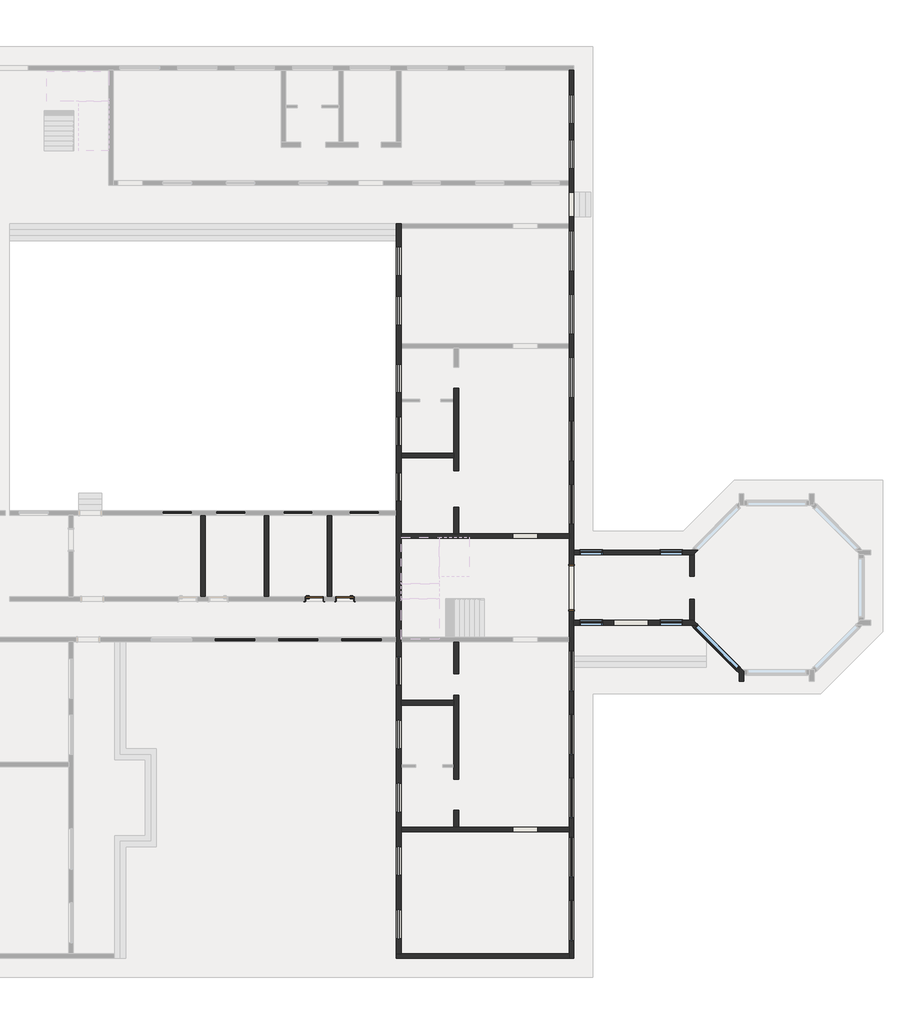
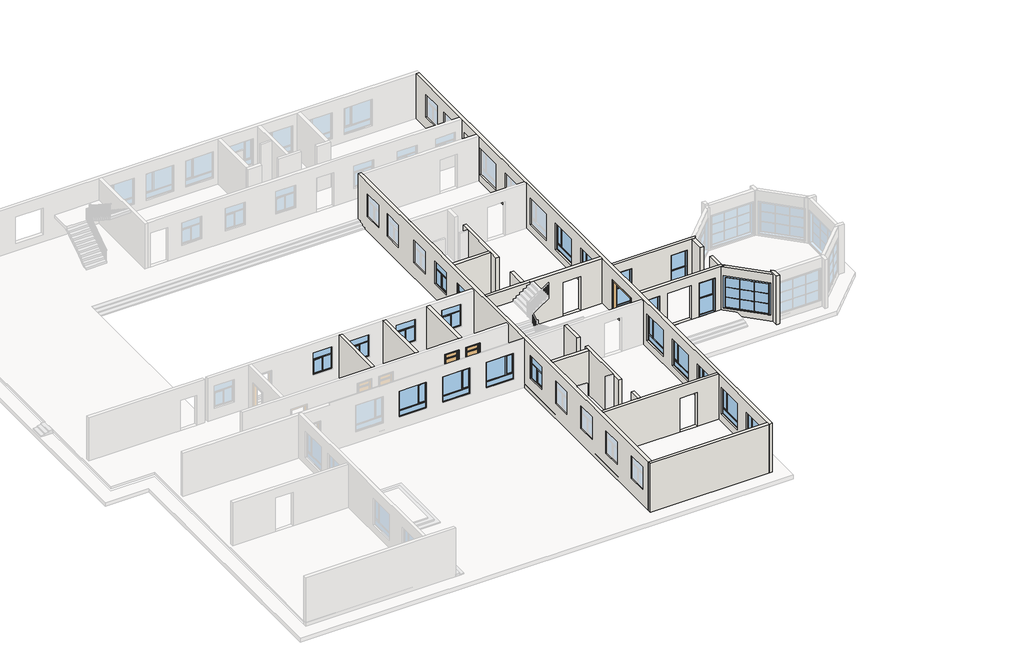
# One storey, part 2 of 5: 22 windows, 21 walls, 3 doors.
"""IFC4 building model written with IfcOpenShell, lengths in millimetres."""

from ifc_helpers import new_model, si_unit, frame, origin, place, context, project, spatial, polyline, outline, extrude, faceted_brep, transform, mapped, element, save
from components import door_54be2501, m1_645588ba, m1_8023598c, c1_07d47191, c2_05897f81, c3_0cb914d8, c4_9eb043cc

model = new_model("IFC4")

# Units and contexts
model_context = context("Model", 3, world=origin())
ifc_project = project(units=[si_unit("LENGTHUNIT", "METRE", prefix="MILLI")], contexts=[model_context])

# Site, building, storey
site = spatial("IfcSite", under=ifc_project)
building = spatial("IfcBuilding", under=site)
storey = spatial("IfcBuildingStorey", under=building, Name="一层", Elevation=0.0)

# Doors
placement = place(None, origin())
door_shape = door_54be2501(model_context)
element("IfcDoor", 1, ObjectType="门洞 : MD1(洞口）", at=placement, inside=storey, context=model_context, shape_type="MappedRepresentation", body=[
    mapped(door_shape, transform((6129.7168608, -8520.7838385, 0.0), x_axis=(0.0, 1.0, 0.0), y_axis=(-1.0, 0.0, 0.0), z_axis=(0.0, 0.0, 1.0))),
])
m1_shape = m1_645588ba(model_context)
element("IfcDoor", 2, ObjectType="单嵌板木门 13 : M1", at=placement, inside=storey, context=model_context, shape_type="MappedRepresentation", body=[
    mapped(m1_shape, transform((-7270.2831392, -9113.7838385, 0.0), x_axis=(1.0, 0.0, 0.0), y_axis=(0.0, 1.0, 0.0), z_axis=(0.0, 0.0, 1.0))),
])
m1_2_shape = m1_8023598c(model_context)
element("IfcDoor", 3, ObjectType="单嵌板木门 13 : M1", at=placement, inside=storey, context=model_context, shape_type="MappedRepresentation", body=[
    mapped(m1_2_shape, transform((-5670.2831392, -9113.7838385, 0.0), x_axis=(-1.0, 0.0, 0.0), y_axis=(0.0, -1.0, 0.0), z_axis=(0.0, 0.0, 1.0))),
])

# Walls
element("IfcWall", 4, ObjectType="墙", at=placement, inside=storey, context=model_context, shape_type="Brep", body=[
    faceted_brep([(6249.7168608, -27833.7838385, -300.0), (6249.7168608, -10460.7838385, -300.0), (6249.7168608, -10220.7838385, -300.0), (6249.7168608, -6806.7838385, -300.0), (6249.7168608, -6566.7838385, -300.0), (6249.7168608, 18456.2161615, -300.0), (6249.7168608, 18456.2161615, 3600.0), (6249.7168608, -7920.7838385, 3600.0), (6249.7168608, -9120.7838385, 3600.0), (6249.7168608, -27833.7838385, 3600.0), (6249.7168608, 17176.2161615, 900.0), (6249.7168608, 15676.2161615, 900.0), (6249.7168608, 15676.2161615, 2700.0), (6249.7168608, 17176.2161615, 2700.0), (6249.7168608, 14826.2161615, 900.0), (6249.7168608, 13326.2161615, 900.0), (6249.7168608, 13326.2161615, 2700.0), (6249.7168608, 14826.2161615, 2700.0), (6249.7168608, -24813.7838385, 600.0), (6249.7168608, -26913.7838385, 600.0), (6249.7168608, -26913.7838385, 2700.0), (6249.7168608, -24813.7838385, 2700.0), (6249.7168608, -21513.7838385, 600.0), (6249.7168608, -23613.7838385, 600.0), (6249.7168608, -23613.7838385, 2700.0), (6249.7168608, -21513.7838385, 2700.0), (6249.7168608, -18413.7838385, 600.0), (6249.7168608, -20513.7838385, 600.0), (6249.7168608, -20513.7838385, 2700.0), (6249.7168608, -18413.7838385, 2700.0), (6249.7168608, -15113.7838385, 600.0), (6249.7168608, -17213.7838385, 600.0), (6249.7168608, -17213.7838385, 2700.0), (6249.7168608, -15113.7838385, 2700.0), (6249.7168608, -11813.7838385, 600.0), (6249.7168608, -13913.7838385, 600.0), (6249.7168608, -13913.7838385, 2700.0), (6249.7168608, -11813.7838385, 2700.0), (6249.7168608, 10086.2161615, 600.0), (6249.7168608, 7986.2161615, 600.0), (6249.7168608, 7986.2161615, 2700.0), (6249.7168608, 10086.2161615, 2700.0), (6249.7168608, 6786.2161615, 600.0), (6249.7168608, 4686.2161615, 600.0), (6249.7168608, 4686.2161615, 2700.0), (6249.7168608, 6786.2161615, 2700.0), (6249.7168608, 3486.2161615, 600.0), (6249.7168608, 1386.2161615, 600.0), (6249.7168608, 1386.2161615, 2700.0), (6249.7168608, 3486.2161615, 2700.0), (6249.7168608, 186.2161615, 600.0), (6249.7168608, -1913.7838385, 600.0), (6249.7168608, -1913.7838385, 2700.0), (6249.7168608, 186.2161615, 2700.0), (6249.7168608, -3113.7838385, 600.0), (6249.7168608, -5213.7838385, 600.0), (6249.7168608, -5213.7838385, 2700.0), (6249.7168608, -3113.7838385, 2700.0), (6249.7168608, 12111.2161615, 0.0), (6249.7168608, 10811.2161615, 0.0), (6249.7168608, 10811.2161615, 2700.0), (6249.7168608, 12111.2161615, 2700.0), (6249.7168608, -7320.7838385, 0.0), (6249.7168608, -9720.7838385, 0.0), (6249.7168608, -9720.7838385, 2700.0), (6249.7168608, -7320.7838385, 2700.0), (6009.7168608, -27833.7838385, -300.0), (6009.7168608, -27833.7838385, 3600.0), (6009.7168608, -27593.7838385, 3600.0), (6009.7168608, -21233.7838385, 3600.0), (6009.7168608, -20993.7838385, 3600.0), (6009.7168608, -9120.7838385, 3600.0), (6009.7168608, -7920.7838385, 3600.0), (6009.7168608, -5933.7838385, 3600.0), (6009.7168608, -5693.7838385, 3600.0), (6009.7168608, 3966.2161615, 3600.0), (6009.7168608, 4206.2161615, 3600.0), (6009.7168608, 10226.2161615, 3600.0), (6009.7168608, 10466.2161615, 3600.0), (6009.7168608, 12456.2161615, 3600.0), (6009.7168608, 12696.2161615, 3600.0), (6009.7168608, 18456.2161615, 3600.0), (6009.7168608, 18456.2161615, -300.0), (6009.7168608, 12696.2161615, -300.0), (6009.7168608, 12456.2161615, -300.0), (6009.7168608, 10466.2161615, -300.0), (6009.7168608, 10226.2161615, -300.0), (6009.7168608, 4206.2161615, -300.0), (6009.7168608, 3966.2161615, -300.0), (6009.7168608, -5693.7838385, -300.0), (6009.7168608, -5933.7838385, -300.0), (6009.7168608, -11093.7838385, -300.0), (6009.7168608, -11333.7838385, -300.0), (6009.7168608, -20993.7838385, -300.0), (6009.7168608, -21233.7838385, -300.0), (6009.7168608, -27593.7838385, -300.0), (6009.7168608, 17176.2161615, 900.0), (6009.7168608, 17176.2161615, 2700.0), (6009.7168608, 15676.2161615, 2700.0), (6009.7168608, 15676.2161615, 900.0), (6009.7168608, 14826.2161615, 900.0), (6009.7168608, 14826.2161615, 2700.0), (6009.7168608, 13326.2161615, 2700.0), (6009.7168608, 13326.2161615, 900.0), (6009.7168608, -24813.7838385, 600.0), (6009.7168608, -24813.7838385, 2700.0), (6009.7168608, -26913.7838385, 2700.0), (6009.7168608, -26913.7838385, 600.0), (6009.7168608, -21513.7838385, 600.0), (6009.7168608, -21513.7838385, 2700.0), (6009.7168608, -23613.7838385, 2700.0), (6009.7168608, -23613.7838385, 600.0), (6009.7168608, -18413.7838385, 600.0), (6009.7168608, -18413.7838385, 2700.0), (6009.7168608, -20513.7838385, 2700.0), (6009.7168608, -20513.7838385, 600.0), (6009.7168608, -15113.7838385, 600.0), (6009.7168608, -15113.7838385, 2700.0), (6009.7168608, -17213.7838385, 2700.0), (6009.7168608, -17213.7838385, 600.0), (6009.7168608, -11813.7838385, 600.0), (6009.7168608, -11813.7838385, 2700.0), (6009.7168608, -13913.7838385, 2700.0), (6009.7168608, -13913.7838385, 600.0), (6009.7168608, 10086.2161615, 600.0), (6009.7168608, 10086.2161615, 2700.0), (6009.7168608, 7986.2161615, 2700.0), (6009.7168608, 7986.2161615, 600.0), (6009.7168608, 6786.2161615, 600.0), (6009.7168608, 6786.2161615, 2700.0), (6009.7168608, 4686.2161615, 2700.0), (6009.7168608, 4686.2161615, 600.0), (6009.7168608, 3486.2161615, 600.0), (6009.7168608, 3486.2161615, 2700.0), (6009.7168608, 1386.2161615, 2700.0), (6009.7168608, 1386.2161615, 600.0), (6009.7168608, 186.2161615, 600.0), (6009.7168608, 186.2161615, 2700.0), (6009.7168608, -1913.7838385, 2700.0), (6009.7168608, -1913.7838385, 600.0), (6009.7168608, -3113.7838385, 600.0), (6009.7168608, -3113.7838385, 2700.0), (6009.7168608, -5213.7838385, 2700.0), (6009.7168608, -5213.7838385, 600.0), (6009.7168608, 12111.2161615, 0.0), (6009.7168608, 12111.2161615, 2700.0), (6009.7168608, 10811.2161615, 2700.0), (6009.7168608, 10811.2161615, 0.0), (6009.7168608, -7320.7838385, 0.0), (6009.7168608, -7320.7838385, 2700.0), (6009.7168608, -9720.7838385, 2700.0), (6009.7168608, -9720.7838385, 0.0)], [[[0, 1, 2, 3, 4, 5, 6, 7, 8, 9], [10, 11, 12, 13], [14, 15, 16, 17], [18, 19, 20, 21], [22, 23, 24, 25], [26, 27, 28, 29], [30, 31, 32, 33], [34, 35, 36, 37], [38, 39, 40, 41], [42, 43, 44, 45], [46, 47, 48, 49], [50, 51, 52, 53], [54, 55, 56, 57], [58, 59, 60, 61], [62, 63, 64, 65]], [[66, 67, 68, 69, 70, 71, 72, 73, 74, 75, 76, 77, 78, 79, 80, 81, 82, 83, 84, 85, 86, 87, 88, 89, 90, 91, 92, 93, 94, 95], [96, 97, 98, 99], [100, 101, 102, 103], [104, 105, 106, 107], [108, 109, 110, 111], [112, 113, 114, 115], [116, 117, 118, 119], [120, 121, 122, 123], [124, 125, 126, 127], [128, 129, 130, 131], [132, 133, 134, 135], [136, 137, 138, 139], [140, 141, 142, 143], [144, 145, 146, 147], [148, 149, 150, 151]], [[5, 4, 3, 2, 1, 0, 66, 95, 94, 93, 92, 91, 90, 89, 88, 87, 86, 85, 84, 83, 82]], [[9, 8, 7, 6, 81, 80, 79, 78, 77, 76, 75, 74, 73, 72, 71, 70, 69, 68, 67]], [[6, 5, 82, 81]], [[0, 9, 67, 66]], [[97, 96, 10, 13]], [[98, 97, 13, 12]], [[99, 98, 12, 11]], [[96, 99, 11, 10]], [[101, 100, 14, 17]], [[102, 101, 17, 16]], [[103, 102, 16, 15]], [[100, 103, 15, 14]], [[105, 104, 18, 21]], [[106, 105, 21, 20]], [[107, 106, 20, 19]], [[104, 107, 19, 18]], [[109, 108, 22, 25]], [[110, 109, 25, 24]], [[111, 110, 24, 23]], [[108, 111, 23, 22]], [[113, 112, 26, 29]], [[114, 113, 29, 28]], [[115, 114, 28, 27]], [[112, 115, 27, 26]], [[117, 116, 30, 33]], [[118, 117, 33, 32]], [[119, 118, 32, 31]], [[116, 119, 31, 30]], [[121, 120, 34, 37]], [[122, 121, 37, 36]], [[123, 122, 36, 35]], [[120, 123, 35, 34]], [[125, 124, 38, 41]], [[126, 125, 41, 40]], [[127, 126, 40, 39]], [[124, 127, 39, 38]], [[129, 128, 42, 45]], [[130, 129, 45, 44]], [[131, 130, 44, 43]], [[128, 131, 43, 42]], [[133, 132, 46, 49]], [[134, 133, 49, 48]], [[135, 134, 48, 47]], [[132, 135, 47, 46]], [[137, 136, 50, 53]], [[138, 137, 53, 52]], [[139, 138, 52, 51]], [[136, 139, 51, 50]], [[141, 140, 54, 57]], [[142, 141, 57, 56]], [[143, 142, 56, 55]], [[140, 143, 55, 54]], [[145, 144, 58, 61]], [[146, 145, 61, 60]], [[147, 146, 60, 59]], [[144, 147, 59, 58]], [[149, 148, 62, 65]], [[150, 149, 65, 64]], [[151, 150, 64, 63]], [[148, 151, 63, 62]]]),
])
element("IfcWall", 5, ObjectType="墙", at=placement, inside=storey, context=model_context, shape_type="Brep", body=[
    faceted_brep([(-2990.2831392, -27833.7838385, -300.0), (6009.7168608, -27833.7838385, -300.0), (6009.7168608, -27833.7838385, 3600.0), (-2990.2831392, -27833.7838385, 3600.0), (-2990.2831392, -27593.7838385, -300.0), (-2990.2831392, -27593.7838385, 3600.0), (-2750.2831392, -27593.7838385, 3600.0), (6009.7168608, -27593.7838385, 3600.0), (6009.7168608, -27593.7838385, -300.0), (-2750.2831392, -27593.7838385, -300.0)], [[[0, 1, 2, 3]], [[4, 5, 6, 7, 8, 9]], [[1, 0, 4, 9, 8]], [[3, 2, 7, 6, 5]], [[2, 1, 8, 7]], [[0, 3, 5, 4]]]),
])
element("IfcWall", 6, ObjectType="墙", at=placement, inside=storey, context=model_context, shape_type="Brep", body=[
    faceted_brep([(-2750.2831392, -27593.7838385, -300.0), (-2750.2831392, -21233.7838385, -300.0), (-2750.2831392, -20993.7838385, -300.0), (-2750.2831392, -14633.7838385, -300.0), (-2750.2831392, -14393.7838385, -300.0), (-2750.2831392, -11333.7838385, -300.0), (-2750.2831392, -11093.7838385, -300.0), (-2750.2831392, -5933.7838385, -300.0), (-2750.2831392, -5693.7838385, -300.0), (-2750.2831392, -1733.7838385, -300.0), (-2750.2831392, -1493.7838385, -300.0), (-2750.2831392, 3966.2161615, -300.0), (-2750.2831392, 4206.2161615, -300.0), (-2750.2831392, 10226.2161615, -300.0), (-2750.2831392, 10466.2161615, -300.0), (-2750.2831392, 10466.2161615, 3600.0), (-2750.2831392, 10226.2161615, 3600.0), (-2750.2831392, 4206.2161615, 3600.0), (-2750.2831392, 3966.2161615, 3600.0), (-2750.2831392, 1296.2161615, 3600.0), (-2750.2831392, 1176.2161615, 3600.0), (-2750.2831392, -1493.7838385, 3600.0), (-2750.2831392, -1733.7838385, 3600.0), (-2750.2831392, -5693.7838385, 3600.0), (-2750.2831392, -5933.7838385, 3600.0), (-2750.2831392, -11093.7838385, 3600.0), (-2750.2831392, -11153.7838385, 3600.0), (-2750.2831392, -14393.7838385, 3600.0), (-2750.2831392, -14633.7838385, 3600.0), (-2750.2831392, -17753.7838385, 3600.0), (-2750.2831392, -17873.7838385, 3600.0), (-2750.2831392, -20993.7838385, 3600.0), (-2750.2831392, -21233.7838385, 3600.0), (-2750.2831392, -27593.7838385, 3600.0), (-2750.2831392, -26813.7838385, 900.0), (-2750.2831392, -26813.7838385, 2700.0), (-2750.2831392, -25313.7838385, 2700.0), (-2750.2831392, -25313.7838385, 900.0), (-2750.2831392, -23513.7838385, 900.0), (-2750.2831392, -23513.7838385, 2700.0), (-2750.2831392, -22013.7838385, 2700.0), (-2750.2831392, -22013.7838385, 900.0), (-2750.2831392, -20213.7838385, 900.0), (-2750.2831392, -20213.7838385, 2700.0), (-2750.2831392, -18713.7838385, 2700.0), (-2750.2831392, -18713.7838385, 900.0), (-2750.2831392, -16913.7838385, 900.0), (-2750.2831392, -16913.7838385, 2700.0), (-2750.2831392, -15413.7838385, 2700.0), (-2750.2831392, -15413.7838385, 900.0), (-2750.2831392, -13613.7838385, 900.0), (-2750.2831392, -13613.7838385, 2700.0), (-2750.2831392, -12113.7838385, 2700.0), (-2750.2831392, -12113.7838385, 900.0), (-2750.2831392, 7746.2161615, 900.0), (-2750.2831392, 7746.2161615, 2700.0), (-2750.2831392, 9246.2161615, 2700.0), (-2750.2831392, 9246.2161615, 900.0), (-2750.2831392, 5166.2161615, 900.0), (-2750.2831392, 5166.2161615, 2700.0), (-2750.2831392, 6666.2161615, 2700.0), (-2750.2831392, 6666.2161615, 900.0), (-2750.2831392, 1636.2161615, 900.0), (-2750.2831392, 1636.2161615, 2700.0), (-2750.2831392, 3136.2161615, 2700.0), (-2750.2831392, 3136.2161615, 900.0), (-2750.2831392, -1113.7838385, 900.0), (-2750.2831392, -1113.7838385, 2700.0), (-2750.2831392, 386.2161615, 2700.0), (-2750.2831392, 386.2161615, 900.0), (-2750.2831392, -4013.7838385, 900.0), (-2750.2831392, -4013.7838385, 2700.0), (-2750.2831392, -2513.7838385, 2700.0), (-2750.2831392, -2513.7838385, 900.0), (-2990.2831392, -27593.7838385, -300.0), (-2990.2831392, -27593.7838385, 3600.0), (-2990.2831392, -11333.7838385, 3600.0), (-2990.2831392, -11273.7838385, 3600.0), (-2990.2831392, 10466.2161615, 3600.0), (-2990.2831392, 10466.2161615, -300.0), (-2990.2831392, -4493.7838385, -300.0), (-2990.2831392, -4733.7838385, -300.0), (-2990.2831392, -8993.7838385, -300.0), (-2990.2831392, -9233.7838385, -300.0), (-2990.2831392, -11093.7838385, -300.0), (-2990.2831392, -11333.7838385, -300.0), (-2990.2831392, -26813.7838385, 900.0), (-2990.2831392, -25313.7838385, 900.0), (-2990.2831392, -25313.7838385, 2700.0), (-2990.2831392, -26813.7838385, 2700.0), (-2990.2831392, -23513.7838385, 900.0), (-2990.2831392, -22013.7838385, 900.0), (-2990.2831392, -22013.7838385, 2700.0), (-2990.2831392, -23513.7838385, 2700.0), (-2990.2831392, -20213.7838385, 900.0), (-2990.2831392, -18713.7838385, 900.0), (-2990.2831392, -18713.7838385, 2700.0), (-2990.2831392, -20213.7838385, 2700.0), (-2990.2831392, -16913.7838385, 900.0), (-2990.2831392, -15413.7838385, 900.0), (-2990.2831392, -15413.7838385, 2700.0), (-2990.2831392, -16913.7838385, 2700.0), (-2990.2831392, -13613.7838385, 900.0), (-2990.2831392, -12113.7838385, 900.0), (-2990.2831392, -12113.7838385, 2700.0), (-2990.2831392, -13613.7838385, 2700.0), (-2990.2831392, 7746.2161615, 900.0), (-2990.2831392, 9246.2161615, 900.0), (-2990.2831392, 9246.2161615, 2700.0), (-2990.2831392, 7746.2161615, 2700.0), (-2990.2831392, 5166.2161615, 900.0), (-2990.2831392, 6666.2161615, 900.0), (-2990.2831392, 6666.2161615, 2700.0), (-2990.2831392, 5166.2161615, 2700.0), (-2990.2831392, 1636.2161615, 900.0), (-2990.2831392, 3136.2161615, 900.0), (-2990.2831392, 3136.2161615, 2700.0), (-2990.2831392, 1636.2161615, 2700.0), (-2990.2831392, -1113.7838385, 900.0), (-2990.2831392, 386.2161615, 900.0), (-2990.2831392, 386.2161615, 2700.0), (-2990.2831392, -1113.7838385, 2700.0), (-2990.2831392, -4013.7838385, 900.0), (-2990.2831392, -2513.7838385, 900.0), (-2990.2831392, -2513.7838385, 2700.0), (-2990.2831392, -4013.7838385, 2700.0)], [[[0, 1, 2, 3, 4, 5, 6, 7, 8, 9, 10, 11, 12, 13, 14, 15, 16, 17, 18, 19, 20, 21, 22, 23, 24, 25, 26, 27, 28, 29, 30, 31, 32, 33], [34, 35, 36, 37], [38, 39, 40, 41], [42, 43, 44, 45], [46, 47, 48, 49], [50, 51, 52, 53], [54, 55, 56, 57], [58, 59, 60, 61], [62, 63, 64, 65], [66, 67, 68, 69], [70, 71, 72, 73]], [[74, 75, 76, 77, 78, 79, 80, 81, 82, 83, 84, 85], [86, 87, 88, 89], [90, 91, 92, 93], [94, 95, 96, 97], [98, 99, 100, 101], [102, 103, 104, 105], [106, 107, 108, 109], [110, 111, 112, 113], [114, 115, 116, 117], [118, 119, 120, 121], [122, 123, 124, 125]], [[14, 13, 12, 11, 10, 9, 8, 7, 6, 5, 4, 3, 2, 1, 0, 74, 85, 84, 83, 82, 81, 80, 79]], [[33, 32, 31, 30, 29, 28, 27, 26, 25, 24, 23, 22, 21, 20, 19, 18, 17, 16, 15, 78, 77, 76, 75]], [[0, 33, 75, 74]], [[35, 34, 86, 89]], [[36, 35, 89, 88]], [[37, 36, 88, 87]], [[34, 37, 87, 86]], [[39, 38, 90, 93]], [[40, 39, 93, 92]], [[41, 40, 92, 91]], [[38, 41, 91, 90]], [[43, 42, 94, 97]], [[44, 43, 97, 96]], [[45, 44, 96, 95]], [[42, 45, 95, 94]], [[47, 46, 98, 101]], [[48, 47, 101, 100]], [[49, 48, 100, 99]], [[46, 49, 99, 98]], [[51, 50, 102, 105]], [[52, 51, 105, 104]], [[53, 52, 104, 103]], [[50, 53, 103, 102]], [[15, 14, 79, 78]], [[55, 54, 106, 109]], [[56, 55, 109, 108]], [[57, 56, 108, 107]], [[54, 57, 107, 106]], [[59, 58, 110, 113]], [[60, 59, 113, 112]], [[61, 60, 112, 111]], [[58, 61, 111, 110]], [[63, 62, 114, 117]], [[64, 63, 117, 116]], [[65, 64, 116, 115]], [[62, 65, 115, 114]], [[67, 66, 118, 121]], [[68, 67, 121, 120]], [[69, 68, 120, 119]], [[66, 69, 119, 118]], [[71, 70, 122, 125]], [[72, 71, 125, 124]], [[73, 72, 124, 123]], [[70, 73, 123, 122]]]),
])
element("IfcWall", 7, ObjectType="墙", at=placement, inside=storey, context=model_context, shape_type="Brep", body=[
    faceted_brep([(6249.7168608, -6806.7838385, -300.0), (12304.7168608, -6806.7838385, -300.0), (12474.4224883, -6806.7838385, -300.0), (12474.4224883, -6806.7838385, 3450.0), (12304.7168608, -6806.7838385, 3450.0), (6249.7168608, -6806.7838385, 3450.0), (7754.7168608, -6806.7838385, 2700.0), (7754.7168608, -6806.7838385, 0.0), (6554.7168608, -6806.7838385, 0.0), (6554.7168608, -6806.7838385, 2700.0), (11939.7168608, -6806.7838385, 2700.0), (11939.7168608, -6806.7838385, 0.0), (10739.7168608, -6806.7838385, 0.0), (10739.7168608, -6806.7838385, 2700.0), (12714.4224883, -6566.7838385, -300.0), (12375.0112333, -6566.7838385, -300.0), (6249.7168608, -6566.7838385, -300.0), (6249.7168608, -6566.7838385, 3450.0), (12375.0112333, -6566.7838385, 3450.0), (12714.4224883, -6566.7838385, 3450.0), (12714.4224883, -6566.7838385, 2700.0), (12710.5961532, -6566.7838385, 2700.0), (12710.5961532, -6566.7838385, 200.0), (12714.4224883, -6566.7838385, 200.0), (7754.7168608, -6566.7838385, 0.0), (7754.7168608, -6566.7838385, 2700.0), (6554.7168608, -6566.7838385, 2700.0), (6554.7168608, -6566.7838385, 0.0), (11939.7168608, -6566.7838385, 0.0), (11939.7168608, -6566.7838385, 2700.0), (10739.7168608, -6566.7838385, 2700.0), (10739.7168608, -6566.7838385, 0.0), (12544.7168608, -6736.4894659, -300.0), (12712.5093208, -6568.697006, 200.0), (12712.5093208, -6568.697006, 2700.0), (12544.7168608, -6736.4894659, 3450.0)], [[[0, 1, 2, 3, 4, 5], [6, 7, 8, 9], [10, 11, 12, 13]], [[14, 15, 16, 17, 18, 19, 20, 21, 22, 23], [24, 25, 26, 27], [28, 29, 30, 31]], [[2, 1, 0, 16, 15, 14, 32]], [[16, 0, 5, 17]], [[2, 32, 14, 23, 33, 34, 20, 19, 35, 3]], [[7, 6, 25, 24]], [[8, 7, 24, 27]], [[9, 8, 27, 26]], [[6, 9, 26, 25]], [[11, 10, 29, 28]], [[12, 11, 28, 31]], [[13, 12, 31, 30]], [[10, 13, 30, 29]], [[22, 33, 23]], [[33, 22, 21, 34]], [[34, 21, 20]], [[5, 4, 3, 35, 19, 18, 17]]]),
])
element("IfcWall", 8, ObjectType="墙", at=placement, inside=storey, context=model_context, shape_type="Brep", body=[
    faceted_brep([(6249.7168608, -10460.7838385, -300.0), (12375.0112333, -10460.7838385, -300.0), (12714.4224883, -10460.7838385, -300.0), (12714.4224883, -10460.7838385, 200.0), (12710.5961532, -10460.7838385, 200.0), (12710.5961532, -10460.7838385, 2700.0), (12714.4224883, -10460.7838385, 2700.0), (12714.4224883, -10460.7838385, 3450.0), (12375.0112333, -10460.7838385, 3450.0), (6249.7168608, -10460.7838385, 3450.0), (11939.7168608, -10460.7838385, 2700.0), (11939.7168608, -10460.7838385, 0.0), (10739.7168608, -10460.7838385, 0.0), (10739.7168608, -10460.7838385, 2700.0), (7754.7168608, -10460.7838385, 2700.0), (7754.7168608, -10460.7838385, 0.0), (6554.7168608, -10460.7838385, 0.0), (6554.7168608, -10460.7838385, 2700.0), (10146.7168608, -10460.7838385, 2700.0), (10146.7168608, -10460.7838385, 0.0), (8346.7168608, -10460.7838385, 0.0), (8346.7168608, -10460.7838385, 2700.0), (12474.4224883, -10220.7838385, -300.0), (12304.7168608, -10220.7838385, -300.0), (6249.7168608, -10220.7838385, -300.0), (6249.7168608, -10220.7838385, 3450.0), (12304.7168608, -10220.7838385, 3450.0), (12474.4224883, -10220.7838385, 3450.0), (11939.7168608, -10220.7838385, 0.0), (11939.7168608, -10220.7838385, 2700.0), (10739.7168608, -10220.7838385, 2700.0), (10739.7168608, -10220.7838385, 0.0), (7754.7168608, -10220.7838385, 0.0), (7754.7168608, -10220.7838385, 2700.0), (6554.7168608, -10220.7838385, 2700.0), (6554.7168608, -10220.7838385, 0.0), (10146.7168608, -10220.7838385, 0.0), (10146.7168608, -10220.7838385, 2700.0), (8346.7168608, -10220.7838385, 2700.0), (8346.7168608, -10220.7838385, 0.0), (12544.7168608, -10291.078211, -300.0), (12544.7168608, -10291.078211, 3450.0), (12712.5093208, -10458.8706709, 2700.0), (12712.5093208, -10458.8706709, 200.0)], [[[0, 1, 2, 3, 4, 5, 6, 7, 8, 9], [10, 11, 12, 13], [14, 15, 16, 17], [18, 19, 20, 21]], [[22, 23, 24, 25, 26, 27], [28, 29, 30, 31], [32, 33, 34, 35], [36, 37, 38, 39]], [[2, 1, 0, 24, 23, 22, 40]], [[2, 40, 22, 27, 41, 7, 6, 42, 43, 3]], [[24, 0, 9, 25]], [[11, 10, 29, 28]], [[12, 11, 28, 31]], [[13, 12, 31, 30]], [[10, 13, 30, 29]], [[15, 14, 33, 32]], [[16, 15, 32, 35]], [[17, 16, 35, 34]], [[14, 17, 34, 33]], [[43, 4, 3]], [[4, 43, 42, 5]], [[5, 42, 6]], [[37, 36, 19, 18]], [[38, 37, 18, 21]], [[39, 38, 21, 20]], [[36, 39, 20, 19]], [[9, 8, 7, 41, 27, 26, 25]]]),
])
element("IfcWall", 9, ObjectType="墙", at=placement, inside=storey, context=model_context, shape_type="Brep", body=[
    faceted_brep([(12375.0112333, -10460.7838385, -300.0), (14887.7168608, -12973.4894659, -300.0), (14887.7168608, -12973.4894659, 3450.0), (12375.0112333, -10460.7838385, 3450.0), (14720.6925793, -12806.4651844, 2700.0), (14720.6925793, -12806.4651844, 200.0), (12542.8036933, -10628.5762984, 200.0), (12542.8036933, -10628.5762984, 2700.0), (14887.7168608, -12634.078211, -300.0), (12714.4224883, -10460.7838385, -300.0), (12714.4224883, -10460.7838385, 200.0), (14887.7168608, -12634.078211, 200.0), (14887.7168608, -12634.078211, 2700.0), (12714.4224883, -10460.7838385, 2700.0), (12714.4224883, -10460.7838385, 3450.0), (14887.7168608, -12634.078211, 3450.0), (12710.5961532, -10460.7838385, 2700.0), (12710.5961532, -10460.7838385, 200.0), (14887.7168608, -12639.440903, 2700.0), (14887.7168608, -12639.440903, 200.0)], [[[0, 1, 2, 3], [4, 5, 6, 7]], [[8, 9, 10, 11]], [[12, 13, 14, 15]], [[1, 0, 9, 8]], [[9, 0, 3, 14, 13, 16, 17, 10]], [[4, 18, 19, 5]], [[5, 19, 11, 10, 17, 6]], [[6, 17, 16, 7]], [[18, 4, 7, 16, 13, 12]], [[1, 8, 11, 19, 18, 12, 15, 2]], [[3, 2, 15, 14]]]),
])
element("IfcWall", 10, ObjectType="墙", at=placement, inside=storey, context=model_context, shape_type="Brep", body=[
    faceted_brep([(14887.7168608, -12634.078211, -300.0), (14887.7168608, -12973.4894659, -300.0), (14887.7168608, -13403.7838385, -300.0), (14887.7168608, -13403.7838385, 3600.0), (14887.7168608, -12803.7838385, 3600.0), (14887.7168608, -12634.078211, 3600.0), (14887.7168608, -12634.078211, 3450.0), (14887.7168608, -12634.078211, 2700.0), (14887.7168608, -12639.440903, 2700.0), (14887.7168608, -12639.440903, 200.0), (14887.7168608, -12634.078211, 200.0), (15127.7168608, -13403.7838385, -300.0), (15127.7168608, -13043.7838385, -300.0), (15127.7168608, -12874.078211, -300.0), (15127.7168608, -12874.078211, 3600.0), (15127.7168608, -13043.7838385, 3600.0), (15127.7168608, -13403.7838385, 3600.0), (15057.4224883, -12803.7838385, -300.0), (15057.4224883, -12803.7838385, 3600.0), (14890.3982068, -12636.759557, 2700.0), (14890.3982068, -12636.759557, 200.0)], [[[0, 1, 2, 3, 4, 5, 6, 7, 8, 9, 10]], [[11, 12, 13, 14, 15, 16]], [[2, 1, 0, 17, 13, 12, 11]], [[3, 2, 11, 16]], [[5, 4, 3, 16, 15, 14, 18]], [[8, 19, 20, 9]], [[9, 20, 10]], [[19, 8, 7]], [[5, 18, 14, 13, 17, 0, 10, 20, 19, 7, 6]]]),
])
element("IfcWall", 11, ObjectType="墙", at=placement, inside=storey, context=model_context, shape_type="SweptSolid", body=[
    extrude(outline(polyline([(12304.7168608, -7911.7838385), (12304.7168608, -6806.7838385), (12474.4224883, -6806.7838385), (12544.7168608, -6736.4894659), (12544.7168608, -7911.7838385), (12304.7168608, -7911.7838385)])), frame((0.0, 0.0, -300.0), z_axis=(0.0, 0.0, 1.0), x_axis=(1.0, 0.0, 0.0)), (0.0, 0.0, 1.0), 3750.0),
])
element("IfcWall", 12, ObjectType="墙", at=placement, inside=storey, context=model_context, shape_type="SweptSolid", body=[
    extrude(outline(polyline([(-6590.2831392, -8993.7838385), (-6590.2831392, -4733.7838385), (-6350.2831392, -4733.7838385), (-6350.2831392, -8993.7838385), (-6590.2831392, -8993.7838385)])), frame((0.0, 0.0, -300.0), z_axis=(0.0, 0.0, 1.0), x_axis=(1.0, 0.0, 0.0)), (0.0, 0.0, 1.0), 3750.0),
])
element("IfcWall", 13, ObjectType="墙", at=placement, inside=storey, context=model_context, shape_type="SweptSolid", body=[
    extrude(outline(polyline([(-9890.2831392, -8993.7838385), (-9890.2831392, -4733.7838385), (-9650.2831392, -4733.7838385), (-9650.2831392, -8993.7838385), (-9890.2831392, -8993.7838385)])), frame((0.0, 0.0, -300.0), z_axis=(0.0, 0.0, 1.0), x_axis=(1.0, 0.0, 0.0)), (0.0, 0.0, 1.0), 3750.0),
])
element("IfcWall", 14, ObjectType="墙", at=placement, inside=storey, context=model_context, shape_type="SweptSolid", body=[
    extrude(outline(polyline([(-13190.2831392, -8993.7838385), (-13190.2831392, -4733.7838385), (-12950.2831392, -4733.7838385), (-12950.2831392, -8993.7838385), (-13190.2831392, -8993.7838385)])), frame((0.0, 0.0, -300.0), z_axis=(0.0, 0.0, 1.0), x_axis=(1.0, 0.0, 0.0)), (0.0, 0.0, 1.0), 3750.0),
])
element("IfcWall", 15, ObjectType="墙", at=placement, inside=storey, context=model_context, shape_type="Brep", body=[
    faceted_brep([(-2750.2831392, -5933.7838385, -300.0), (6009.7168608, -5933.7838385, -300.0), (6009.7168608, -5933.7838385, 3600.0), (-2750.2831392, -5933.7838385, 3600.0), (4379.7168608, -5933.7838385, 0.0), (3079.7168608, -5933.7838385, 0.0), (3079.7168608, -5933.7838385, 2700.0), (4379.7168608, -5933.7838385, 2700.0), (-2750.2831392, -5693.7838385, -300.0), (-2750.2831392, -5693.7838385, 3600.0), (9.7168608, -5693.7838385, 3600.0), (249.7168608, -5693.7838385, 3600.0), (6009.7168608, -5693.7838385, 3600.0), (6009.7168608, -5693.7838385, -300.0), (249.7168608, -5693.7838385, -300.0), (9.7168608, -5693.7838385, -300.0), (4379.7168608, -5693.7838385, 0.0), (4379.7168608, -5693.7838385, 2700.0), (3079.7168608, -5693.7838385, 2700.0), (3079.7168608, -5693.7838385, 0.0)], [[[0, 1, 2, 3], [4, 5, 6, 7]], [[8, 9, 10, 11, 12, 13, 14, 15], [16, 17, 18, 19]], [[1, 0, 8, 15, 14, 13]], [[3, 2, 12, 11, 10, 9]], [[2, 1, 13, 12]], [[0, 3, 9, 8]], [[17, 16, 4, 7]], [[18, 17, 7, 6]], [[19, 18, 6, 5]], [[16, 19, 5, 4]]]),
])
element("IfcWall", 16, ObjectType="墙", at=placement, inside=storey, context=model_context, shape_type="SweptSolid", body=[
    extrude(outline(polyline([(9.7168608, -1733.7838385), (-2750.2831392, -1733.7838385), (-2750.2831392, -1493.7838385), (9.7168608, -1493.7838385), (9.7168608, -1733.7838385)])), frame((0.0, 0.0, -300.0), z_axis=(0.0, 0.0, 1.0), x_axis=(1.0, 0.0, 0.0)), (0.0, 0.0, 1.0), 3900.0),
])
element("IfcWall", 17, ObjectType="墙", at=placement, inside=storey, context=model_context, shape_type="Brep", body=[
    faceted_brep([(-2750.2831392, -21233.7838385, -300.0), (6009.7168608, -21233.7838385, -300.0), (6009.7168608, -21233.7838385, 3600.0), (-2750.2831392, -21233.7838385, 3600.0), (3079.7168608, -21233.7838385, 0.0), (3079.7168608, -21233.7838385, 2700.0), (4379.7168608, -21233.7838385, 2700.0), (4379.7168608, -21233.7838385, 0.0), (-2750.2831392, -20993.7838385, -300.0), (-2750.2831392, -20993.7838385, 3600.0), (9.7168608, -20993.7838385, 3600.0), (249.7168608, -20993.7838385, 3600.0), (6009.7168608, -20993.7838385, 3600.0), (6009.7168608, -20993.7838385, -300.0), (249.7168608, -20993.7838385, -300.0), (9.7168608, -20993.7838385, -300.0), (3079.7168608, -20993.7838385, 0.0), (4379.7168608, -20993.7838385, 0.0), (4379.7168608, -20993.7838385, 2700.0), (3079.7168608, -20993.7838385, 2700.0)], [[[0, 1, 2, 3], [4, 5, 6, 7]], [[8, 9, 10, 11, 12, 13, 14, 15], [16, 17, 18, 19]], [[1, 0, 8, 15, 14, 13]], [[3, 2, 12, 11, 10, 9]], [[2, 1, 13, 12]], [[0, 3, 9, 8]], [[5, 4, 16, 19]], [[6, 5, 19, 18]], [[7, 6, 18, 17]], [[4, 7, 17, 16]]]),
])
element("IfcWall", 18, ObjectType="墙", at=placement, inside=storey, context=model_context, shape_type="SweptSolid", body=[
    extrude(outline(polyline([(249.7168608, -20113.7838385), (249.7168608, -20993.7838385), (9.7168608, -20993.7838385), (9.7168608, -20113.7838385), (249.7168608, -20113.7838385)])), frame((0.0, 0.0, -300.0), z_axis=(0.0, 0.0, 1.0), x_axis=(1.0, 0.0, 0.0)), (0.0, 0.0, 1.0), 3900.0),
])
element("IfcWall", 19, ObjectType="墙", at=placement, inside=storey, context=model_context, shape_type="SweptSolid", body=[
    extrude(outline(polyline([(9.7168608, -14633.7838385), (-2750.2831392, -14633.7838385), (-2750.2831392, -14393.7838385), (9.7168608, -14393.7838385), (9.7168608, -14633.7838385)])), frame((0.0, 0.0, -300.0), z_axis=(0.0, 0.0, 1.0), x_axis=(1.0, 0.0, 0.0)), (0.0, 0.0, 1.0), 3900.0),
])
element("IfcWall", 20, ObjectType="墙", at=placement, inside=storey, context=model_context, shape_type="SweptSolid", body=[
    extrude(outline(polyline([(12304.7168608, -10220.7838385), (12304.7168608, -9115.7838385), (12544.7168608, -9115.7838385), (12544.7168608, -10291.078211), (12474.4224883, -10220.7838385), (12304.7168608, -10220.7838385)])), frame((0.0, 0.0, -300.0), z_axis=(0.0, 0.0, 1.0), x_axis=(1.0, 0.0, 0.0)), (0.0, 0.0, 1.0), 3750.0),
])
element("IfcWall", 21, ObjectType="墙", at=placement, inside=storey, context=model_context, shape_type="SweptSolid", body=[
    extrude(outline(polyline([(249.7168608, -11333.7838385), (249.7168608, -13013.7838385), (9.7168608, -13013.7838385), (9.7168608, -11333.7838385), (249.7168608, -11333.7838385)])), frame((0.0, 0.0, -300.0), z_axis=(0.0, 0.0, 1.0), x_axis=(1.0, 0.0, 0.0)), (0.0, 0.0, 1.0), 3900.0),
])
element("IfcWall", 22, ObjectType="墙", at=placement, inside=storey, context=model_context, shape_type="Brep", body=[
    faceted_brep([(249.7168608, -18513.7838385, -300.0), (249.7168608, -14113.7838385, -300.0), (249.7168608, -14113.7838385, 3600.0), (249.7168608, -18513.7838385, 3600.0), (9.7168608, -18513.7838385, -300.0), (9.7168608, -18513.7838385, 3600.0), (9.7168608, -17873.7838385, 3600.0), (9.7168608, -17753.7838385, 3600.0), (9.7168608, -14633.7838385, 3600.0), (9.7168608, -14393.7838385, 3600.0), (9.7168608, -14113.7838385, 3600.0), (9.7168608, -14113.7838385, -300.0), (9.7168608, -14393.7838385, -300.0), (9.7168608, -14633.7838385, -300.0)], [[[0, 1, 2, 3]], [[4, 5, 6, 7, 8, 9, 10, 11, 12, 13]], [[1, 0, 4, 13, 12, 11]], [[2, 1, 11, 10]], [[3, 2, 10, 9, 8, 7, 6, 5]], [[0, 3, 5, 4]]]),
])
element("IfcWall", 23, ObjectType="墙", at=placement, inside=storey, context=model_context, shape_type="Brep", body=[
    faceted_brep([(9.7168608, 1886.2161615, -300.0), (9.7168608, -1493.7838385, -300.0), (9.7168608, -1733.7838385, -300.0), (9.7168608, -2413.7838385, -300.0), (9.7168608, -2413.7838385, 3600.0), (9.7168608, -1733.7838385, 3600.0), (9.7168608, -1493.7838385, 3600.0), (9.7168608, 1176.2161615, 3600.0), (9.7168608, 1296.2161615, 3600.0), (9.7168608, 1886.2161615, 3600.0), (249.7168608, 1886.2161615, -300.0), (249.7168608, 1886.2161615, 3600.0), (249.7168608, -2413.7838385, 3600.0), (249.7168608, -2413.7838385, -300.0)], [[[0, 1, 2, 3, 4, 5, 6, 7, 8, 9]], [[10, 11, 12, 13]], [[3, 2, 1, 0, 10, 13]], [[4, 3, 13, 12]], [[9, 8, 7, 6, 5, 4, 12, 11]], [[0, 9, 11, 10]]]),
])
element("IfcWall", 24, ObjectType="墙", at=placement, inside=storey, context=model_context, shape_type="SweptSolid", body=[
    extrude(outline(polyline([(9.7168608, -5693.7838385), (9.7168608, -4313.7838385), (249.7168608, -4313.7838385), (249.7168608, -5693.7838385), (9.7168608, -5693.7838385)])), frame((0.0, 0.0, -300.0), z_axis=(0.0, 0.0, 1.0), x_axis=(1.0, 0.0, 0.0)), (0.0, 0.0, 1.0), 3900.0),
])

# Windows
c1_shape = c1_07d47191(model_context)
element("IfcWindow", 25, ObjectType="组合窗 - 双层单列(固定+推拉) : C1", at=placement, inside=storey, context=model_context, shape_type="MappedRepresentation", body=[
    mapped(c1_shape, transform((-2870.2831392, -12863.7838385, 0.0), x_axis=(0.0, 1.0, 0.0), y_axis=(-1.0, 0.0, 0.0), z_axis=(0.0, 0.0, 1.0))),
])
element("IfcWindow", 26, ObjectType="组合窗 - 双层单列(固定+推拉) : C1", at=placement, inside=storey, context=model_context, shape_type="MappedRepresentation", body=[
    mapped(c1_shape, transform((-4670.2831392, -4613.7838385, 0.0), x_axis=(1.0, 0.0, 0.0), y_axis=(0.0, 1.0, 0.0), z_axis=(0.0, 0.0, 1.0))),
])
element("IfcWindow", 27, ObjectType="组合窗 - 双层单列(固定+推拉) : C1", at=placement, inside=storey, context=model_context, shape_type="MappedRepresentation", body=[
    mapped(c1_shape, transform((-8120.2831392, -4613.7838385, 0.0), x_axis=(1.0, 0.0, 0.0), y_axis=(0.0, 1.0, 0.0), z_axis=(0.0, 0.0, 1.0))),
])
element("IfcWindow", 28, ObjectType="组合窗 - 双层单列(固定+推拉) : C1", at=placement, inside=storey, context=model_context, shape_type="MappedRepresentation", body=[
    mapped(c1_shape, transform((-11620.2831392, -4613.7838385, 0.0), x_axis=(1.0, 0.0, 0.0), y_axis=(0.0, 1.0, 0.0), z_axis=(0.0, 0.0, 1.0))),
])
element("IfcWindow", 29, ObjectType="组合窗 - 双层单列(固定+推拉) : C1", at=placement, inside=storey, context=model_context, shape_type="MappedRepresentation", body=[
    mapped(c1_shape, transform((-14420.2831392, -4613.7838385, 0.0), x_axis=(1.0, 0.0, 0.0), y_axis=(0.0, 1.0, 0.0), z_axis=(0.0, 0.0, 1.0))),
])
element("IfcWindow", 30, ObjectType="组合窗 - 双层单列(固定+推拉) : C1", at=placement, inside=storey, context=model_context, shape_type="MappedRepresentation", body=[
    mapped(c1_shape, transform((-2870.2831392, -363.7838385, 0.0), x_axis=(0.0, 1.0, 0.0), y_axis=(-1.0, 0.0, 0.0), z_axis=(0.0, 0.0, 1.0))),
])
element("IfcWindow", 31, ObjectType="组合窗 - 双层单列(固定+推拉) : C1", at=placement, inside=storey, context=model_context, shape_type="MappedRepresentation", body=[
    mapped(c1_shape, transform((-2870.2831392, -3263.7838385, 0.0), x_axis=(0.0, 1.0, 0.0), y_axis=(-1.0, 0.0, 0.0), z_axis=(0.0, 0.0, 1.0))),
])
c2_shape = c2_05897f81(model_context)
element("IfcWindow", 32, ObjectType="组合窗 - 双层双列(平开+固定) - 下部单扇 : C2", at=placement, inside=storey, context=model_context, shape_type="MappedRepresentation", body=[
    mapped(c2_shape, transform((-4810.2831392, -11213.7838385, 0.0), x_axis=(-1.0, 0.0, 0.0), y_axis=(0.0, -1.0, 0.0), z_axis=(0.0, 0.0, 1.0))),
])
element("IfcWindow", 33, ObjectType="组合窗 - 双层双列(平开+固定) - 下部单扇 : C2", at=placement, inside=storey, context=model_context, shape_type="MappedRepresentation", body=[
    mapped(c2_shape, transform((-8110.2831392, -11213.7838385, 0.0), x_axis=(-1.0, 0.0, 0.0), y_axis=(0.0, -1.0, 0.0), z_axis=(0.0, 0.0, 1.0))),
])
element("IfcWindow", 34, ObjectType="组合窗 - 双层双列(平开+固定) - 下部单扇 : C2", at=placement, inside=storey, context=model_context, shape_type="MappedRepresentation", body=[
    mapped(c2_shape, transform((-11410.2831392, -11213.7838385, 0.0), x_axis=(-1.0, 0.0, 0.0), y_axis=(0.0, -1.0, 0.0), z_axis=(0.0, 0.0, 1.0))),
])
element("IfcWindow", 35, ObjectType="组合窗 - 双层双列(平开+固定) - 下部单扇 : C2", at=placement, inside=storey, context=model_context, shape_type="MappedRepresentation", body=[
    mapped(c2_shape, transform((6129.7168608, -25863.7838385, 0.0), x_axis=(0.0, -1.0, 0.0), y_axis=(1.0, 0.0, 0.0), z_axis=(0.0, 0.0, 1.0))),
])
element("IfcWindow", 36, ObjectType="组合窗 - 双层双列(平开+固定) - 下部单扇 : C2", at=placement, inside=storey, context=model_context, shape_type="MappedRepresentation", body=[
    mapped(c2_shape, transform((6129.7168608, -22563.7838385, 0.0), x_axis=(0.0, -1.0, 0.0), y_axis=(1.0, 0.0, 0.0), z_axis=(0.0, 0.0, 1.0))),
])
element("IfcWindow", 37, ObjectType="组合窗 - 双层双列(平开+固定) - 下部单扇 : C2", at=placement, inside=storey, context=model_context, shape_type="MappedRepresentation", body=[
    mapped(c2_shape, transform((6129.7168608, -19463.7838385, 0.0), x_axis=(0.0, -1.0, 0.0), y_axis=(1.0, 0.0, 0.0), z_axis=(0.0, 0.0, 1.0))),
])
element("IfcWindow", 38, ObjectType="组合窗 - 双层双列(平开+固定) - 下部单扇 : C2", at=placement, inside=storey, context=model_context, shape_type="MappedRepresentation", body=[
    mapped(c2_shape, transform((6129.7168608, -16163.7838385, 0.0), x_axis=(0.0, -1.0, 0.0), y_axis=(1.0, 0.0, 0.0), z_axis=(0.0, 0.0, 1.0))),
])
element("IfcWindow", 39, ObjectType="组合窗 - 双层双列(平开+固定) - 下部单扇 : C2", at=placement, inside=storey, context=model_context, shape_type="MappedRepresentation", body=[
    mapped(c2_shape, transform((6129.7168608, -12863.7838385, 0.0), x_axis=(0.0, -1.0, 0.0), y_axis=(1.0, 0.0, 0.0), z_axis=(0.0, 0.0, 1.0))),
])
element("IfcWindow", 40, ObjectType="组合窗 - 双层双列(平开+固定) - 下部单扇 : C2", at=placement, inside=storey, context=model_context, shape_type="MappedRepresentation", body=[
    mapped(c2_shape, transform((6129.7168608, -863.7838385, 0.0), x_axis=(0.0, -1.0, 0.0), y_axis=(1.0, 0.0, 0.0), z_axis=(0.0, 0.0, 1.0))),
])
element("IfcWindow", 41, ObjectType="组合窗 - 双层双列(平开+固定) - 下部单扇 : C2", at=placement, inside=storey, context=model_context, shape_type="MappedRepresentation", body=[
    mapped(c2_shape, transform((6129.7168608, -4163.7838385, 0.0), x_axis=(0.0, -1.0, 0.0), y_axis=(1.0, 0.0, 0.0), z_axis=(0.0, 0.0, 1.0))),
])
c3_shape = c3_0cb914d8(model_context)
element("IfcWindow", 42, ObjectType="单扇平开窗2 - 带贴面 : C3", at=placement, inside=storey, context=model_context, shape_type="MappedRepresentation", body=[
    mapped(c3_shape, transform((13716.6009501, -11632.6679277, -700.0), x_axis=(0.7071067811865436, -0.7071067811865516, 0.0), y_axis=(0.7071067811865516, 0.7071067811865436, 0.0), z_axis=(0.0, 0.0, 1.0))),
])
c4_shape = c4_9eb043cc(model_context)
element("IfcWindow", 43, ObjectType="上下拉窗1 : C4", at=placement, inside=storey, context=model_context, shape_type="MappedRepresentation", body=[
    mapped(c4_shape, transform((7154.7168608, -6686.5453782, -300.0), x_axis=(1.0, 0.0, 0.0), y_axis=(0.0, 1.0, 0.0), z_axis=(0.0, 0.0, 1.0))),
])
element("IfcWindow", 44, ObjectType="上下拉窗1 : C4", at=placement, inside=storey, context=model_context, shape_type="MappedRepresentation", body=[
    mapped(c4_shape, transform((11339.7168608, -6686.5453782, -300.0), x_axis=(1.0, 0.0, 0.0), y_axis=(0.0, 1.0, 0.0), z_axis=(0.0, 0.0, 1.0))),
])
element("IfcWindow", 45, ObjectType="上下拉窗1 : C4", at=placement, inside=storey, context=model_context, shape_type="MappedRepresentation", body=[
    mapped(c4_shape, transform((7154.7168608, -10340.5453782, -300.0), x_axis=(1.0, 0.0, 0.0), y_axis=(0.0, 1.0, 0.0), z_axis=(0.0, 0.0, 1.0))),
])
element("IfcWindow", 46, ObjectType="上下拉窗1 : C4", at=placement, inside=storey, context=model_context, shape_type="MappedRepresentation", body=[
    mapped(c4_shape, transform((11339.7168608, -10340.5453782, -300.0), x_axis=(1.0, 0.0, 0.0), y_axis=(0.0, 1.0, 0.0), z_axis=(0.0, 0.0, 1.0))),
])

save(model, "model.ifc")
